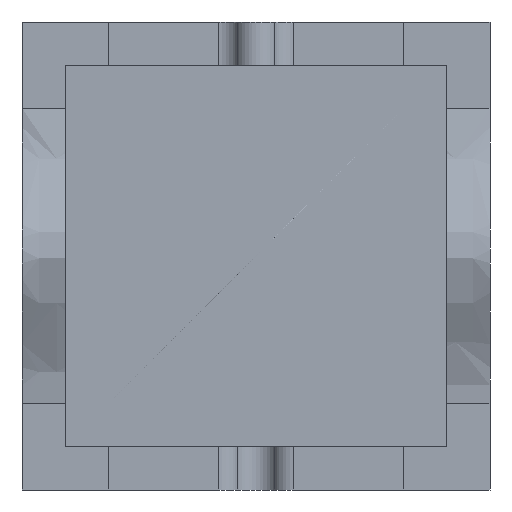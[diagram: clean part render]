
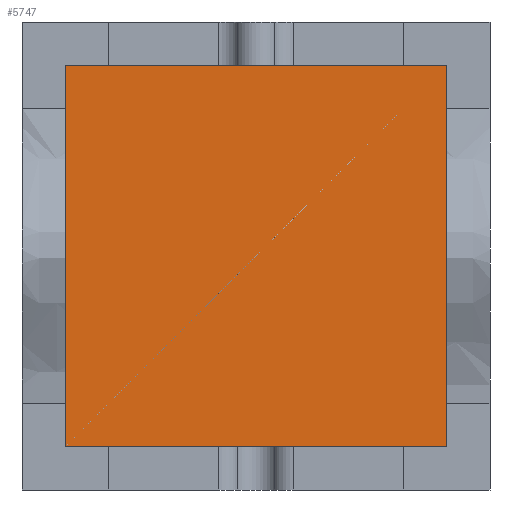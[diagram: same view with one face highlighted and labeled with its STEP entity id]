
A CAD part, front view. The second image highlights one B-rep face of the part: STEP entity #5747.
In plain terms, the highlighted planar face has unit normal (0, -1, 0).
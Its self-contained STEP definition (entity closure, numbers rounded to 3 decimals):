
#5621=CARTESIAN_POINT('Vertex',(-20.,-30.,-20.)) ;
#5626=CARTESIAN_POINT('Line Origine',(-20.,-30.,68.5)) ;
#5630=CARTESIAN_POINT('Vertex',(-20.,-30.,157.)) ;
#5657=CARTESIAN_POINT('Line Origine',(68.5,-30.,157.)) ;
#5661=CARTESIAN_POINT('Vertex',(157.,-30.,157.)) ;
#5688=CARTESIAN_POINT('Line Origine',(157.,-30.,68.5)) ;
#5692=CARTESIAN_POINT('Vertex',(157.,-30.,-20.)) ;
#5719=CARTESIAN_POINT('Line Origine',(68.5,-30.,-20.)) ;
#5736=CARTESIAN_POINT('Axis2P3D Location',(0.,-30.,0.)) ;
#5627=DIRECTION('Vector Direction',(0.,0.,-1.)) ;
#5658=DIRECTION('Vector Direction',(1.,0.,0.)) ;
#5689=DIRECTION('Vector Direction',(0.,0.,1.)) ;
#5720=DIRECTION('Vector Direction',(-1.,0.,0.)) ;
#5737=DIRECTION('Axis2P3D Direction',(0.,1.,0.)) ;
#5738=DIRECTION('Axis2P3D XDirection',(-1.,0.,0.)) ;
#5739=AXIS2_PLACEMENT_3D('Plane Axis2P3D',#5736,#5737,#5738) ;
#5742=ORIENTED_EDGE('',*,*,#5723,.F.) ;
#5743=ORIENTED_EDGE('',*,*,#5694,.F.) ;
#5744=ORIENTED_EDGE('',*,*,#5663,.F.) ;
#5745=ORIENTED_EDGE('',*,*,#5632,.F.) ;
#5628=VECTOR('Line Direction',#5627,1.) ;
#5659=VECTOR('Line Direction',#5658,1.) ;
#5690=VECTOR('Line Direction',#5689,1.) ;
#5721=VECTOR('Line Direction',#5720,1.) ;
#5747=ADVANCED_FACE('Cavity-molde',(#5746),#5740,.F.) ;
#5632=EDGE_CURVE('',#5622,#5631,#5629,.F.) ;
#5663=EDGE_CURVE('',#5631,#5662,#5660,.T.) ;
#5694=EDGE_CURVE('',#5662,#5693,#5691,.F.) ;
#5723=EDGE_CURVE('',#5693,#5622,#5722,.T.) ;
#5741=EDGE_LOOP('',(#5742,#5743,#5744,#5745)) ;
#5746=FACE_OUTER_BOUND('',#5741,.T.) ;
#5629=LINE('Line',#5626,#5628) ;
#5660=LINE('Line',#5657,#5659) ;
#5691=LINE('Line',#5688,#5690) ;
#5722=LINE('Line',#5719,#5721) ;
#5740=PLANE('',#5739) ;
#5622=VERTEX_POINT('',#5621) ;
#5631=VERTEX_POINT('',#5630) ;
#5662=VERTEX_POINT('',#5661) ;
#5693=VERTEX_POINT('',#5692) ;
